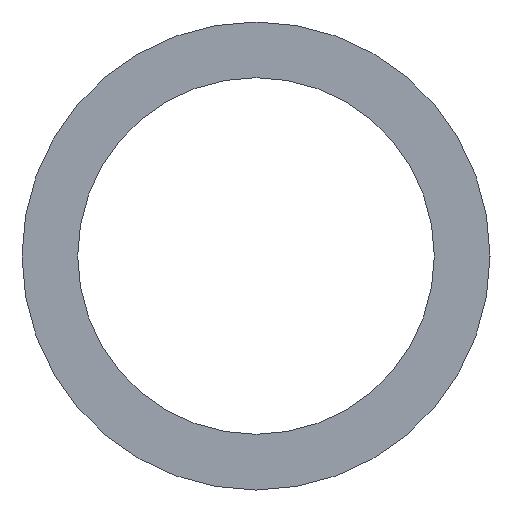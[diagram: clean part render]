
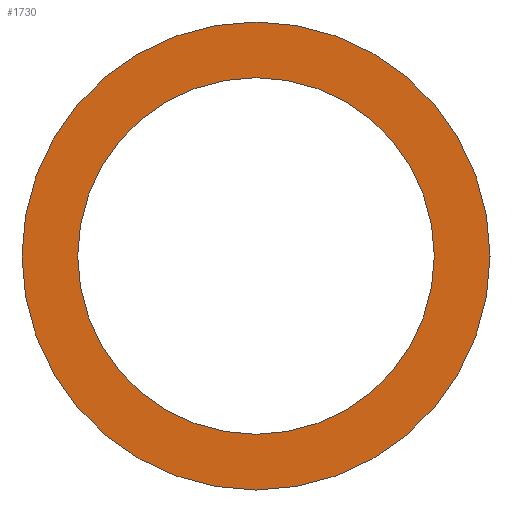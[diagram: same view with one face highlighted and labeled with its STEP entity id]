
A CAD part, left-side view. The second image highlights one B-rep face of the part: STEP entity #1730.
In plain terms, the highlighted planar face has unit normal (-1, 0, 0).
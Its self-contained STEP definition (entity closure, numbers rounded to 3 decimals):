
#820=CARTESIAN_POINT('',(60.14,38.7,17.3));
#830=VERTEX_POINT('',#820);
#880=CARTESIAN_POINT('',(60.14,38.7,0.));
#890=DIRECTION('',(1.,0.,0.));
#900=DIRECTION('',(0.,0.,-1.));
#910=AXIS2_PLACEMENT_3D('',#880,#890,#900);
#920=CIRCLE('',#910,17.3);
#930=CARTESIAN_POINT('',(60.14,38.7,-17.3));
#940=VERTEX_POINT('',#930);
#950=EDGE_CURVE('',#830,#940,#920,.T.);
#1480=CARTESIAN_POINT('',(60.14,59.7,0.));
#1490=DIRECTION('',(-1.,0.,0.));
#1500=DIRECTION('',(0.,1.,0.));
#1510=AXIS2_PLACEMENT_3D('',#1480,#1490,#1500);
#1520=PLANE('',#1510);
#1530=EDGE_CURVE('',#940,#830,#920,.T.);
#1540=ORIENTED_EDGE('',*,*,#1530,.T.);
#1550=ORIENTED_EDGE('',*,*,#950,.T.);
#1560=EDGE_LOOP('',(#1550,#1540));
#1570=FACE_BOUND('',#1560,.T.);
#1580=CARTESIAN_POINT('',(60.14,38.7,0.));
#1590=DIRECTION('',(-1.,0.,0.));
#1600=DIRECTION('',(0.,-1.,0.));
#1610=AXIS2_PLACEMENT_3D('',#1580,#1590,#1600);
#1620=CIRCLE('',#1610,22.7);
#1630=CARTESIAN_POINT('',(60.14,16.,0.));
#1640=VERTEX_POINT('',#1630);
#1650=CARTESIAN_POINT('',(60.14,61.4,0.));
#1660=VERTEX_POINT('',#1650);
#1670=EDGE_CURVE('',#1640,#1660,#1620,.T.);
#1680=ORIENTED_EDGE('',*,*,#1670,.T.);
#1690=EDGE_CURVE('',#1660,#1640,#1620,.T.);
#1700=ORIENTED_EDGE('',*,*,#1690,.T.);
#1710=EDGE_LOOP('',(#1700,#1680));
#1720=FACE_OUTER_BOUND('',#1710,.T.);
#1730=ADVANCED_FACE('',(#1570,#1720),#1520,.T.);
